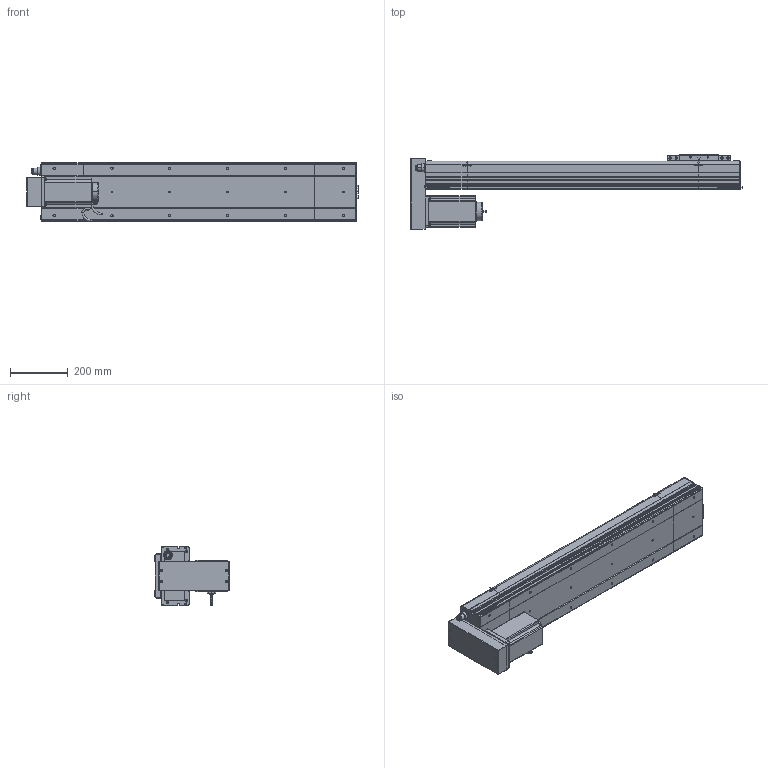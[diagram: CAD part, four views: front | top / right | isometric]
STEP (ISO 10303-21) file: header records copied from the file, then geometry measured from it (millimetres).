
FILE_DESCRIPTION (( 'STEP AP214' ), '1' );
FILE_NAME ('D20 CSH BM S800.STEP', '2010-06-30T08:11:03', ( 'Conseil Régional Haute-Normandie' ), ( 'Conseil Régional Haute-Normandie' ), 'SwSTEP 2.0', 'SolidWorks 2010', '' );
FILE_SCHEMA (( 'AUTOMOTIVE_DESIGN' ));
Length unit declared in the file: millimetre
Products named in the file (31): Plaque de Bout Head BM D20_Default; Plaque De Serrage Head BM D20_Default; vis M5 L15_Default; Couvercle Head BM_Default; Corp Head BM D20_Default; vis M5 L47_Default; Cache Moteur BM D20_Default; vis M5 L30_Default; ecrou_Default; clavette; Support moteur BM D20_Default; Conecteur2_Default; codeur 110BLDC170A-630x; corps 110BLDC170A-630x; Conecteur_Default; avant 110BLDC170A-630x; Moteur motionking 110BLDC170A-640x; Tail D20_Default; D20 CSH BM S800; Plaque de Bout Tail D20_Default; Couvercle_Default; Corp Tail D20_Default; Corp S800_Default; Corp D20 S800_Default; Plaque De Serrage D20_Default; Support Chariot D20_Default; Chariot D20_Default; Couvercle S800_Default; Head BM D20_Default; Glissiere_Default
Assembly tree (58 placements, depth 4):
  D20 CSH BM S800
    Corp D20 S800_Default
      Couvercle S800_Default
      Corp S800_Default
    Tail D20_Default
      vis M5 L15_Default  x6
      Plaque De Serrage D20_Default
      Corp Tail D20_Default
      Couvercle_Default
      Plaque de Bout Tail D20_Default
    Head BM D20_Default
      ecrou_Default  x4
      vis M5 L15_Default  x6
      vis M5 L47_Default  x4
      vis M5 L30_Default  x4
      Couvercle Head BM_Default
      Cache Moteur BM D20_Default
      Moteur motionking 110BLDC170A-640x
        Conecteur2_Default
        corps 110BLDC170A-630x
        Conecteur_Default
        codeur 110BLDC170A-630x
        avant 110BLDC170A-630x
        clavette
      Plaque De Serrage Head BM D20_Default
      Plaque de Bout Head BM D20_Default
      Corp Head BM D20_Default
      Support moteur BM D20_Default
    Chariot D20_Default
      Chariot D20_Default
      vis M5 L15_Default  x8
      Glissiere_Default
      Support Chariot D20_Default
Bounding box: 1147.7 x 257.5 x 206 mm (x, y, z)
Volume: 9876774.1 mm3; surface area: 1871584.1 mm2
Topology: 95 solids, 95 shells, 3508 faces, 8833 edges, 5757 vertices
Faces by surface type: plane 1971, bspline 806, cylinder 593, torus 79, cone 59
Entity records: 156505 total; most frequent: CARTESIAN_POINT 81808, ORIENTED_EDGE 14814, DIRECTION 11051, EDGE_CURVE 7407, VERTEX_POINT 4905, LINE 4859, VECTOR 4859, EDGE_LOOP 3156
